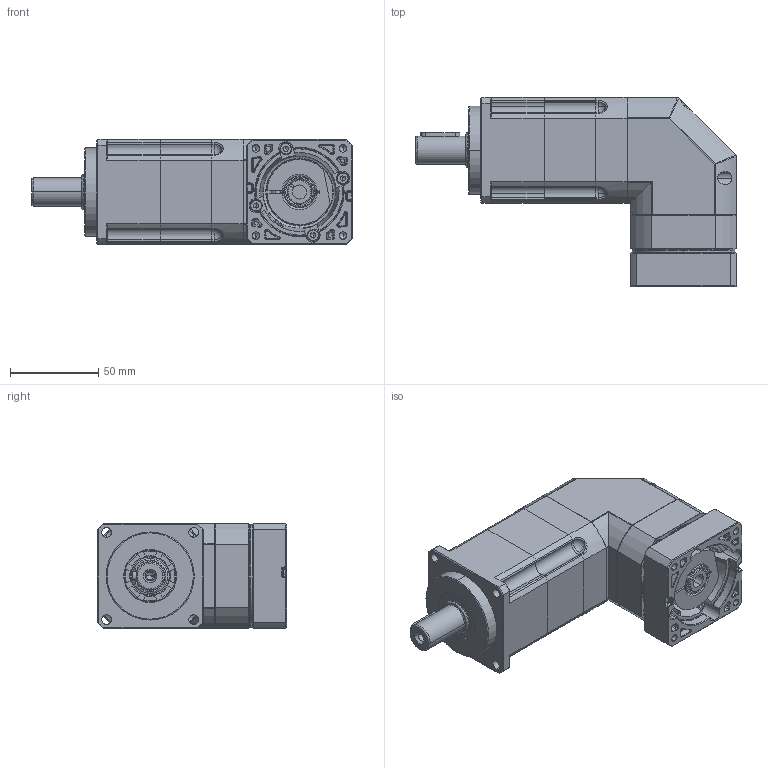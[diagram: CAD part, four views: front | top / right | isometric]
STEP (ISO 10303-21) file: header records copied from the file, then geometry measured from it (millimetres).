
FILE_DESCRIPTION (( 'STEP AP214' ), '1' );
FILE_NAME ('PAR060-L2-S2-P2 14-50-70-M5.STEP', '2021-04-25T08:34:13', ( 'User' ), ( 'china' ), 'SwSTEP 2.0', 'SolidWorks 2016', '' );
FILE_SCHEMA (( 'AUTOMOTIVE_DESIGN' ));
Length unit declared in the file: millimetre
Products named in the file (14): 输入轴PAR060D-14; 蚐猾20304; 11-输入法兰PAR060D-50-70-M5; A倰す瑩5-22; 坶踡遠18-37-12(1); PAR060D怀堤俴陎殤1; PAR060D齿圈; 珨撰眻褒眊极PAR060D; 2-输入端壳体PAR060D; 7-怀堤傷褲极PAR060D; PAR060-L2-S2-P2 14-50-70-M5; PAR060D-Z108一级内齿圈; hexagon socket head cap screws gb_GB_FASTENER_SCREWS_HSHCS M4X16-N; hex socket set screws with cone point gb_GB_FASTENER_SCREWS_HSCP M10X10-N
Assembly tree (16 placements, depth 2):
  PAR060-L2-S2-P2 14-50-70-M5
    7-怀堤傷褲极PAR060D
    2-输入端壳体PAR060D
    珨撰眻褒眊极PAR060D
    PAR060D齿圈
    PAR060D怀堤俴陎殤1
    坶踡遠18-37-12(1)
    A倰す瑩5-22
    11-输入法兰PAR060D-50-70-M5
    蚐猾20304
    输入轴PAR060D-14
    hex socket set screws with cone point gb_GB_FASTENER_SCREWS_HSCP M10X10-N
    hexagon socket head cap screws gb_GB_FASTENER_SCREWS_HSHCS M4X16-N  x4
    PAR060D-Z108一级内齿圈
Bounding box: 182 x 107.5 x 60 mm (x, y, z)
Volume: 611886 mm3; surface area: 113799.7 mm2
Topology: 17 solids, 18 shells, 1116 faces, 2722 edges, 1631 vertices
Faces by surface type: cylinder 385, plane 308, cone 193, torus 167, bspline 46, sphere 17
Entity records: 50260 total; most frequent: CARTESIAN_POINT 13874, DIRECTION 5346, ORIENTED_EDGE 4984, EDGE_CURVE 2492, AXIS2_PLACEMENT_3D 2191, VERTEX_POINT 1528, CIRCLE 1177, EDGE_LOOP 1138
